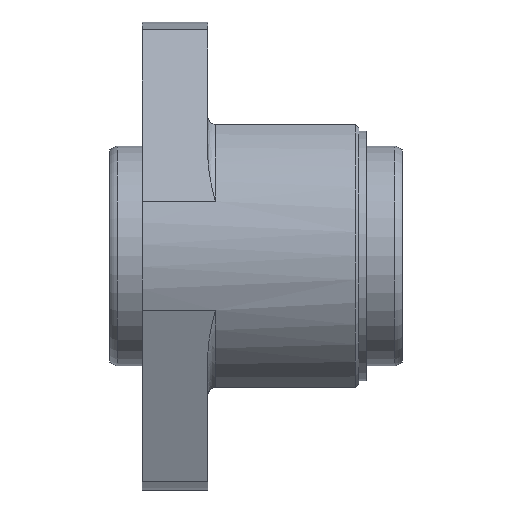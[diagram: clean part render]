
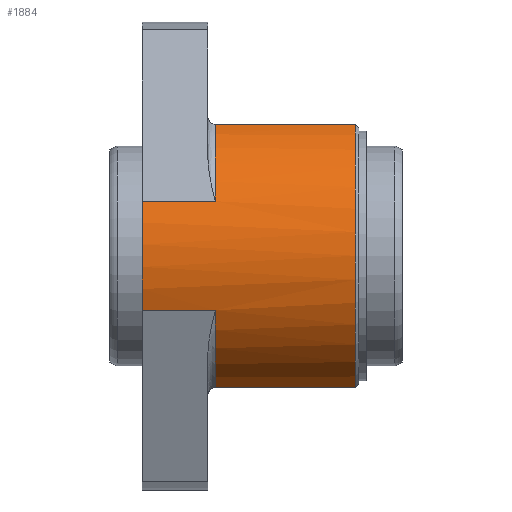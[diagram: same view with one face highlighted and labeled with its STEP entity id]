
A CAD part, top view. The second image highlights one B-rep face of the part: STEP entity #1884.
In plain terms, the highlighted cylindrical face has radius 39 mm (diameter 78 mm), a partial arc.
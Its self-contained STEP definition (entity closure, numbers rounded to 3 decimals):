
#1460=CARTESIAN_POINT('',(20.0,14.925,36.031));
#1461=VERTEX_POINT('',#1460);
#1471=CARTESIAN_POINT('',(20.0,36.0,15.));
#1472=VERTEX_POINT('',#1471);
#1473=CARTESIAN_POINT('',(20.0,0.0,0.0));
#1474=DIRECTION('',(-1.0,0.0,0.0));
#1475=DIRECTION('',(0.0,0.706,0.708));
#1476=AXIS2_PLACEMENT_3D('',#1473,#1474,#1475);
#1477=CIRCLE('',#1476,39.);
#1478=EDGE_CURVE('',#1461,#1472,#1477,.T.);
#1676=CARTESIAN_POINT('',(20.0,-36.0,15.));
#1677=VERTEX_POINT('',#1676);
#1678=CARTESIAN_POINT('',(20.0,-14.925,36.031));
#1679=VERTEX_POINT('',#1678);
#1680=CARTESIAN_POINT('',(20.0,0.0,0.0));
#1681=DIRECTION('',(-1.0,0.0,0.0));
#1682=DIRECTION('',(0.0,-0.706,0.708));
#1683=AXIS2_PLACEMENT_3D('',#1680,#1681,#1682);
#1684=CIRCLE('',#1683,39.0);
#1685=EDGE_CURVE('',#1677,#1679,#1684,.T.);
#1829=CARTESIAN_POINT('',(0.0,0.0,0.0));
#1830=DIRECTION('',(1.0,0.0,0.0));
#1831=DIRECTION('',(0.0,1.0,0.0));
#1832=AXIS2_PLACEMENT_3D('',#1829,#1830,#1831);
#1833=CYLINDRICAL_SURFACE('',#1832,39.0);
#1834=CARTESIAN_POINT('',(0.0,14.925,36.031));
#1835=VERTEX_POINT('',#1834);
#1836=CARTESIAN_POINT('',(0.0,14.925,36.031));
#1837=DIRECTION('',(1.0,0.0,0.0));
#1838=VECTOR('',#1837,20.0);
#1839=LINE('',#1836,#1838);
#1840=EDGE_CURVE('',#1835,#1461,#1839,.T.);
#1841=ORIENTED_EDGE('',*,*,#1840,.F.);
#1842=CARTESIAN_POINT('',(0.0,-14.925,36.031));
#1843=VERTEX_POINT('',#1842);
#1844=CARTESIAN_POINT('',(0.0,0.0,0.0));
#1845=DIRECTION('',(1.0,0.0,0.0));
#1846=DIRECTION('',(0.0,1.0,0.0));
#1847=AXIS2_PLACEMENT_3D('',#1844,#1845,#1846);
#1848=CIRCLE('',#1847,39.0);
#1849=EDGE_CURVE('',#1835,#1843,#1848,.T.);
#1850=ORIENTED_EDGE('',*,*,#1849,.T.);
#1851=CARTESIAN_POINT('',(0.0,-14.925,36.031));
#1852=DIRECTION('',(1.0,0.0,0.0));
#1853=VECTOR('',#1852,20.0);
#1854=LINE('',#1851,#1853);
#1855=EDGE_CURVE('',#1843,#1679,#1854,.T.);
#1856=ORIENTED_EDGE('',*,*,#1855,.T.);
#1857=ORIENTED_EDGE('',*,*,#1685,.F.);
#1858=CARTESIAN_POINT('',(58.3,-36.0,15.));
#1859=VERTEX_POINT('',#1858);
#1860=CARTESIAN_POINT('',(20.0,-36.0,15.));
#1861=DIRECTION('',(1.0,0.0,0.0));
#1862=VECTOR('',#1861,38.3);
#1863=LINE('',#1860,#1862);
#1864=EDGE_CURVE('',#1677,#1859,#1863,.T.);
#1865=ORIENTED_EDGE('',*,*,#1864,.T.);
#1866=CARTESIAN_POINT('',(58.3,36.0,15.));
#1867=VERTEX_POINT('',#1866);
#1868=CARTESIAN_POINT('',(58.3,0.0,0.0));
#1869=DIRECTION('',(1.0,0.0,0.0));
#1870=DIRECTION('',(0.0,1.0,0.0));
#1871=AXIS2_PLACEMENT_3D('',#1868,#1869,#1870);
#1872=CIRCLE('',#1871,39.0);
#1873=EDGE_CURVE('',#1867,#1859,#1872,.T.);
#1874=ORIENTED_EDGE('',*,*,#1873,.F.);
#1875=CARTESIAN_POINT('',(20.0,36.0,15.));
#1876=DIRECTION('',(1.0,0.0,0.0));
#1877=VECTOR('',#1876,38.3);
#1878=LINE('',#1875,#1877);
#1879=EDGE_CURVE('',#1472,#1867,#1878,.T.);
#1880=ORIENTED_EDGE('',*,*,#1879,.F.);
#1881=ORIENTED_EDGE('',*,*,#1478,.F.);
#1882=EDGE_LOOP('',(#1841,#1850,#1856,#1857,#1865,#1874,#1880,#1881));
#1883=FACE_OUTER_BOUND('',#1882,.T.);
#1884=ADVANCED_FACE('',(#1883),#1833,.T.);
